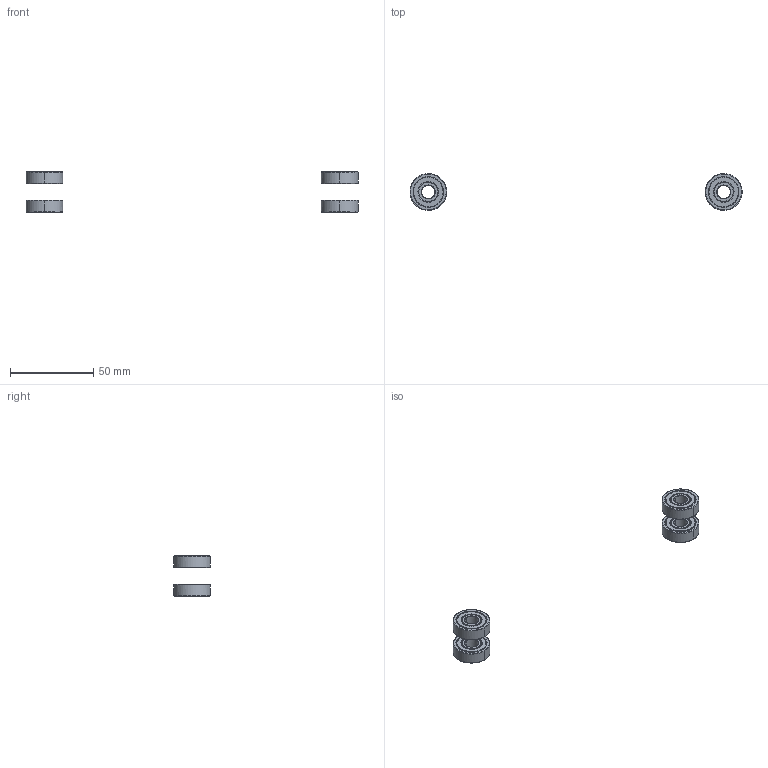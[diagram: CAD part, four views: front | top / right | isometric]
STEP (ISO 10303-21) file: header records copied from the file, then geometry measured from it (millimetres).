
FILE_DESCRIPTION(/* description */ (''),/* implementation_level */ '2;1');
FILE_NAME(/* name */ '240803-DIYUTM-608ZZBearings',/* time_stamp */ '2024-08-03T10:09:46+02:00',/* author */ (''),/* organization */ (''),/* preprocessor_version */ 'ST-DEVELOPER v16.5',/* originating_system */ 'Rhino 7.37',/* authorisation */ '');
FILE_SCHEMA (('CONFIG_CONTROL_DESIGN'));
Length unit declared in the file: millimetre
Products named in the file (1): Document
Bounding box: 198.99 x 22 x 24 mm (x, y, z)
Volume: 5319.6 mm3; surface area: 10817.8 mm2
Topology: 16 solids, 16 shells, 384 faces, 768 edges, 480 vertices
Faces by surface type: cylinder 208, plane 96, bspline 80
Entity records: 12812 total; most frequent: CARTESIAN_POINT 7442, ORIENTED_EDGE 1536, EDGE_CURVE 768, EDGE_LOOP 480, VERTEX_POINT 480, ADVANCED_FACE 384, FACE_OUTER_BOUND 384, DIRECTION 308
